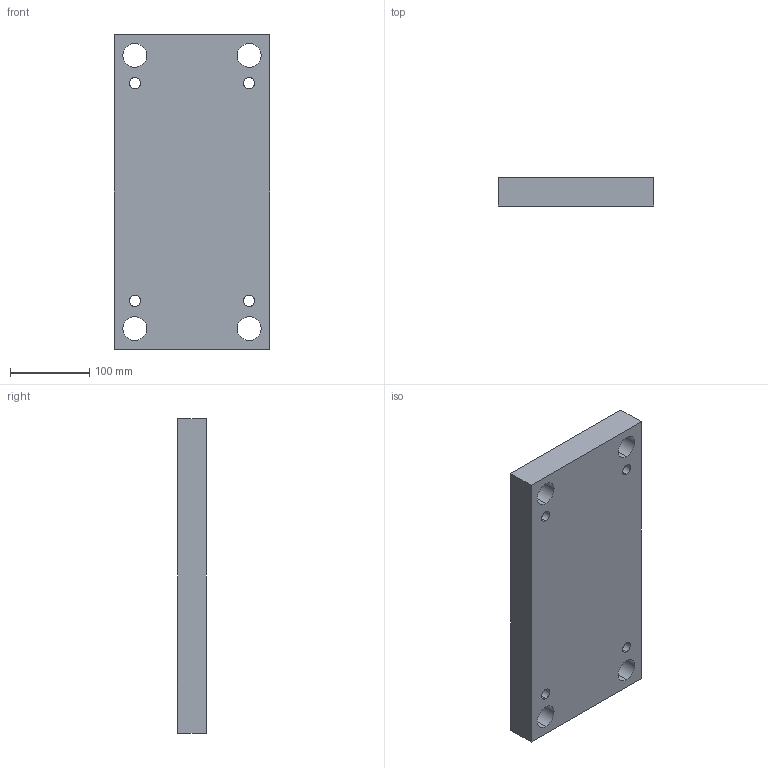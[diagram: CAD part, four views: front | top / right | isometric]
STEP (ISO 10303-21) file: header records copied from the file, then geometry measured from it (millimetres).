
FILE_DESCRIPTION (( 'STEP AP214' ), '1' );
FILE_NAME ('L45_196x396x036.STEP', '2018-10-05T18:40:03', ( '' ), ( '' ), 'SwSTEP 2.0', 'SolidWorks 2014', '' );
FILE_SCHEMA (( 'AUTOMOTIVE_DESIGN' ));
Length unit declared in the file: millimetre
Products named in the file (1): L45_196x396x036
Bounding box: 196 x 36 x 396 mm (x, y, z)
Volume: 2670221.3 mm3; surface area: 210874.8 mm2
Topology: 1 solids, 1 shells, 22 faces, 60 edges, 40 vertices
Faces by surface type: cylinder 16, plane 6
Entity records: 782 total; most frequent: DIRECTION 138, CARTESIAN_POINT 123, ORIENTED_EDGE 120, EDGE_CURVE 60, AXIS2_PLACEMENT_3D 55, VERTEX_POINT 40, EDGE_LOOP 38, CIRCLE 32
